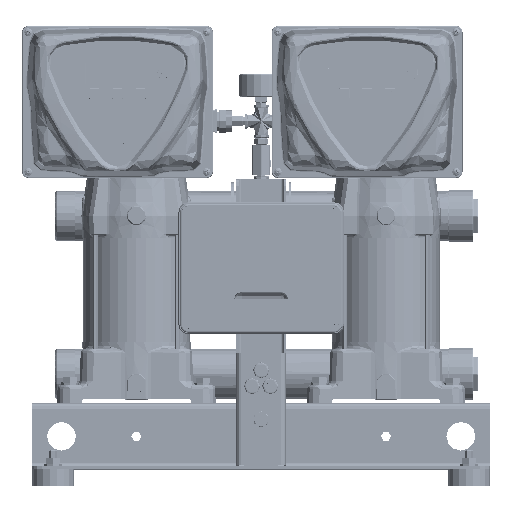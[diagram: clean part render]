
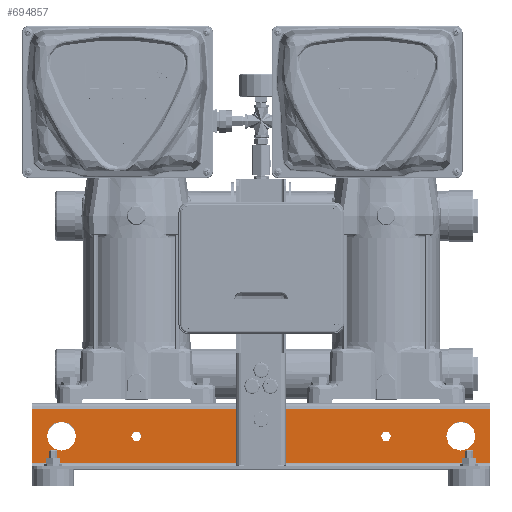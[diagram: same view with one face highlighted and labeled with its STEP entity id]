
A CAD part, top view. The second image highlights one B-rep face of the part: STEP entity #694857.
In plain terms, the highlighted planar face has unit normal (0, 0, 1) as drawn and (0, 0, -1) by its records, which use the part's own axes.
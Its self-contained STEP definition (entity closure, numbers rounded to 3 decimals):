
#688588=DIRECTION('',(1.,0.,0.));
#688589=VECTOR('',#688588,550.);
#688590=CARTESIAN_POINT('',(-275.,-8.,-150.));
#688591=LINE('',#688590,#688589);
#690818=DIRECTION('',(0.,1.,0.));
#690819=VECTOR('',#690818,64.);
#690820=CARTESIAN_POINT('',(-275.,-72.,-150.));
#690821=LINE('',#690820,#690819);
#690839=DIRECTION('',(1.,0.,0.));
#690840=VECTOR('',#690839,550.);
#690841=CARTESIAN_POINT('',(-275.,-72.,-150.));
#690842=LINE('',#690841,#690840);
#690869=DIRECTION('',(0.,1.,0.));
#690870=VECTOR('',#690869,26.);
#690871=CARTESIAN_POINT('',(-26.7,-40.,-150.));
#690872=LINE('',#690871,#690870);
#690876=DIRECTION('',(1.,0.,0.));
#690877=VECTOR('',#690876,3.6);
#690878=CARTESIAN_POINT('',(-30.3,-40.,-150.));
#690879=LINE('',#690878,#690877);
#690883=DIRECTION('',(0.,-1.,0.));
#690884=VECTOR('',#690883,26.);
#690885=CARTESIAN_POINT('',(-30.3,-14.,-150.));
#690886=LINE('',#690885,#690884);
#690890=DIRECTION('',(-1.,0.,0.));
#690891=VECTOR('',#690890,3.6);
#690892=CARTESIAN_POINT('',(-26.7,-14.,-150.));
#690893=LINE('',#690892,#690891);
#690897=DIRECTION('',(0.,1.,0.));
#690898=VECTOR('',#690897,26.);
#690899=CARTESIAN_POINT('',(30.3,-40.,-150.));
#690900=LINE('',#690899,#690898);
#690904=DIRECTION('',(1.,0.,0.));
#690905=VECTOR('',#690904,3.6);
#690906=CARTESIAN_POINT('',(26.7,-40.,-150.));
#690907=LINE('',#690906,#690905);
#690911=DIRECTION('',(0.,-1.,0.));
#690912=VECTOR('',#690911,26.);
#690913=CARTESIAN_POINT('',(26.7,-14.,-150.));
#690914=LINE('',#690913,#690912);
#690918=DIRECTION('',(-1.,0.,0.));
#690919=VECTOR('',#690918,3.6);
#690920=CARTESIAN_POINT('',(30.3,-14.,-150.));
#690921=LINE('',#690920,#690919);
#690925=CARTESIAN_POINT('',(0.,-20.,-150.));
#690926=DIRECTION('',(0.,0.,-1.));
#690927=DIRECTION('',(1.,0.,0.));
#690928=AXIS2_PLACEMENT_3D('',#690925,#690926,#690927);
#690933=CARTESIAN_POINT('',(0.,-20.,-150.));
#690934=DIRECTION('',(0.,0.,-1.));
#690935=DIRECTION('',(-1.,0.,0.));
#690936=AXIS2_PLACEMENT_3D('',#690933,#690934,#690935);
#690941=CARTESIAN_POINT('',(-240.,-40.,-150.));
#690942=DIRECTION('',(0.,0.,1.));
#690943=DIRECTION('',(-1.,0.,0.));
#690944=AXIS2_PLACEMENT_3D('',#690941,#690942,#690943);
#690949=CARTESIAN_POINT('',(-240.,-40.,-150.));
#690950=DIRECTION('',(0.,0.,1.));
#690951=DIRECTION('',(1.,0.,0.));
#690952=AXIS2_PLACEMENT_3D('',#690949,#690950,#690951);
#690957=CARTESIAN_POINT('',(240.,-40.,-150.));
#690958=DIRECTION('',(0.,0.,1.));
#690959=DIRECTION('',(-1.,0.,0.));
#690960=AXIS2_PLACEMENT_3D('',#690957,#690958,#690959);
#690965=CARTESIAN_POINT('',(240.,-40.,-150.));
#690966=DIRECTION('',(0.,0.,1.));
#690967=DIRECTION('',(1.,0.,0.));
#690968=AXIS2_PLACEMENT_3D('',#690965,#690966,#690967);
#690973=CARTESIAN_POINT('',(-150.,-40.,-150.));
#690974=DIRECTION('',(0.,0.,1.));
#690975=DIRECTION('',(1.,0.,0.));
#690976=AXIS2_PLACEMENT_3D('',#690973,#690974,#690975);
#690981=CARTESIAN_POINT('',(-150.,-40.,-150.));
#690982=DIRECTION('',(0.,0.,1.));
#690983=DIRECTION('',(-1.,0.,0.));
#690984=AXIS2_PLACEMENT_3D('',#690981,#690982,#690983);
#690989=CARTESIAN_POINT('',(150.,-40.,-150.));
#690990=DIRECTION('',(0.,0.,-1.));
#690991=DIRECTION('',(-1.,0.,0.));
#690992=AXIS2_PLACEMENT_3D('',#690989,#690990,#690991);
#690997=CARTESIAN_POINT('',(150.,-40.,-150.));
#690998=DIRECTION('',(0.,0.,-1.));
#690999=DIRECTION('',(1.,0.,0.));
#691000=AXIS2_PLACEMENT_3D('',#690997,#690998,#690999);
#691019=DIRECTION('',(0.,1.,0.));
#691020=VECTOR('',#691019,64.);
#691021=CARTESIAN_POINT('',(275.,-72.,-150.));
#691022=LINE('',#691021,#691020);
#692584=CARTESIAN_POINT('',(-275.,-72.,-150.));
#692585=CARTESIAN_POINT('',(-275.,-8.,-150.));
#692586=VERTEX_POINT('',#692584);
#692587=VERTEX_POINT('',#692585);
#692588=CARTESIAN_POINT('',(275.,-72.,-150.));
#692589=CARTESIAN_POINT('',(275.,-8.,-150.));
#692590=VERTEX_POINT('',#692588);
#692591=VERTEX_POINT('',#692589);
#692944=CARTESIAN_POINT('',(-26.7,-40.,-150.));
#692945=CARTESIAN_POINT('',(-26.7,-14.,-150.));
#692946=VERTEX_POINT('',#692944);
#692947=VERTEX_POINT('',#692945);
#692948=CARTESIAN_POINT('',(-30.3,-14.,-150.));
#692949=VERTEX_POINT('',#692948);
#692950=CARTESIAN_POINT('',(-30.3,-40.,-150.));
#692951=VERTEX_POINT('',#692950);
#692952=CARTESIAN_POINT('',(30.3,-40.,-150.));
#692953=CARTESIAN_POINT('',(30.3,-14.,-150.));
#692954=VERTEX_POINT('',#692952);
#692955=VERTEX_POINT('',#692953);
#692956=CARTESIAN_POINT('',(26.7,-14.,-150.));
#692957=VERTEX_POINT('',#692956);
#692958=CARTESIAN_POINT('',(26.7,-40.,-150.));
#692959=VERTEX_POINT('',#692958);
#692976=CARTESIAN_POINT('',(6.25,-20.,-150.));
#692977=CARTESIAN_POINT('',(-6.25,-20.,-150.));
#692978=VERTEX_POINT('',#692976);
#692979=VERTEX_POINT('',#692977);
#693000=CARTESIAN_POINT('',(-257.5,-40.,-150.));
#693001=CARTESIAN_POINT('',(-222.5,-40.,-150.));
#693002=VERTEX_POINT('',#693000);
#693003=VERTEX_POINT('',#693001);
#693004=CARTESIAN_POINT('',(222.5,-40.,-150.));
#693005=CARTESIAN_POINT('',(257.5,-40.,-150.));
#693006=VERTEX_POINT('',#693004);
#693007=VERTEX_POINT('',#693005);
#693100=CARTESIAN_POINT('',(-143.75,-40.,-150.));
#693101=CARTESIAN_POINT('',(-156.25,-40.,-150.));
#693102=VERTEX_POINT('',#693100);
#693103=VERTEX_POINT('',#693101);
#693112=CARTESIAN_POINT('',(143.75,-40.,-150.));
#693114=VERTEX_POINT('',#693112);
#693120=CARTESIAN_POINT('',(156.25,-40.,-150.));
#693122=VERTEX_POINT('',#693120);
#694795=CARTESIAN_POINT('',(-275.,-76.,-150.));
#694796=DIRECTION('',(0.,0.,-1.));
#694797=DIRECTION('',(0.,1.,0.));
#694798=AXIS2_PLACEMENT_3D('',#694795,#694796,#694797);
#694799=PLANE('',#694798);
#694800=ORIENTED_EDGE('',*,*,#694748,.F.);
#694801=ORIENTED_EDGE('',*,*,#694785,.T.);
#694803=ORIENTED_EDGE('',*,*,#694802,.T.);
#694804=ORIENTED_EDGE('',*,*,#693856,.F.);
#694805=EDGE_LOOP('',(#694800,#694801,#694803,#694804));
#694806=FACE_OUTER_BOUND('',#694805,.F.);
#694808=ORIENTED_EDGE('',*,*,#694807,.F.);
#694810=ORIENTED_EDGE('',*,*,#694809,.F.);
#694812=ORIENTED_EDGE('',*,*,#694811,.F.);
#694814=ORIENTED_EDGE('',*,*,#694813,.F.);
#694815=EDGE_LOOP('',(#694808,#694810,#694812,#694814));
#694816=FACE_BOUND('',#694815,.F.);
#694818=ORIENTED_EDGE('',*,*,#694817,.F.);
#694820=ORIENTED_EDGE('',*,*,#694819,.F.);
#694822=ORIENTED_EDGE('',*,*,#694821,.F.);
#694824=ORIENTED_EDGE('',*,*,#694823,.F.);
#694825=EDGE_LOOP('',(#694818,#694820,#694822,#694824));
#694826=FACE_BOUND('',#694825,.F.);
#694828=ORIENTED_EDGE('',*,*,#694827,.T.);
#694830=ORIENTED_EDGE('',*,*,#694829,.T.);
#694831=EDGE_LOOP('',(#694828,#694830));
#694832=FACE_BOUND('',#694831,.F.);
#694834=ORIENTED_EDGE('',*,*,#694833,.F.);
#694836=ORIENTED_EDGE('',*,*,#694835,.F.);
#694837=EDGE_LOOP('',(#694834,#694836));
#694838=FACE_BOUND('',#694837,.F.);
#694840=ORIENTED_EDGE('',*,*,#694839,.F.);
#694842=ORIENTED_EDGE('',*,*,#694841,.F.);
#694843=EDGE_LOOP('',(#694840,#694842));
#694844=FACE_BOUND('',#694843,.F.);
#694846=ORIENTED_EDGE('',*,*,#694845,.F.);
#694848=ORIENTED_EDGE('',*,*,#694847,.F.);
#694849=EDGE_LOOP('',(#694846,#694848));
#694850=FACE_BOUND('',#694849,.F.);
#694852=ORIENTED_EDGE('',*,*,#694851,.T.);
#694854=ORIENTED_EDGE('',*,*,#694853,.T.);
#694855=EDGE_LOOP('',(#694852,#694854));
#694856=FACE_BOUND('',#694855,.F.);
#690929=CIRCLE('',#690928,6.25);
#690937=CIRCLE('',#690936,6.25);
#690945=CIRCLE('',#690944,17.5);
#690953=CIRCLE('',#690952,17.5);
#690961=CIRCLE('',#690960,17.5);
#690969=CIRCLE('',#690968,17.5);
#690977=CIRCLE('',#690976,6.25);
#690985=CIRCLE('',#690984,6.25);
#690993=CIRCLE('',#690992,6.25);
#691001=CIRCLE('',#691000,6.25);
#693856=EDGE_CURVE('',#692587,#692591,#688591,.T.);
#694748=EDGE_CURVE('',#692586,#692587,#690821,.T.);
#694785=EDGE_CURVE('',#692586,#692590,#690842,.T.);
#694802=EDGE_CURVE('',#692590,#692591,#691022,.T.);
#694807=EDGE_CURVE('',#692946,#692947,#690872,.T.);
#694809=EDGE_CURVE('',#692951,#692946,#690879,.T.);
#694811=EDGE_CURVE('',#692949,#692951,#690886,.T.);
#694813=EDGE_CURVE('',#692947,#692949,#690893,.T.);
#694817=EDGE_CURVE('',#692954,#692955,#690900,.T.);
#694819=EDGE_CURVE('',#692959,#692954,#690907,.T.);
#694821=EDGE_CURVE('',#692957,#692959,#690914,.T.);
#694823=EDGE_CURVE('',#692955,#692957,#690921,.T.);
#694827=EDGE_CURVE('',#692978,#692979,#690929,.T.);
#694829=EDGE_CURVE('',#692979,#692978,#690937,.T.);
#694833=EDGE_CURVE('',#693002,#693003,#690945,.T.);
#694835=EDGE_CURVE('',#693003,#693002,#690953,.T.);
#694839=EDGE_CURVE('',#693006,#693007,#690961,.T.);
#694841=EDGE_CURVE('',#693007,#693006,#690969,.T.);
#694845=EDGE_CURVE('',#693102,#693103,#690977,.T.);
#694847=EDGE_CURVE('',#693103,#693102,#690985,.T.);
#694851=EDGE_CURVE('',#693114,#693122,#690993,.T.);
#694853=EDGE_CURVE('',#693122,#693114,#691001,.T.);
#694857=ADVANCED_FACE('',(#694806,#694816,#694826,#694832,#694838,#694844,
#694850,#694856),#694799,.T.);
